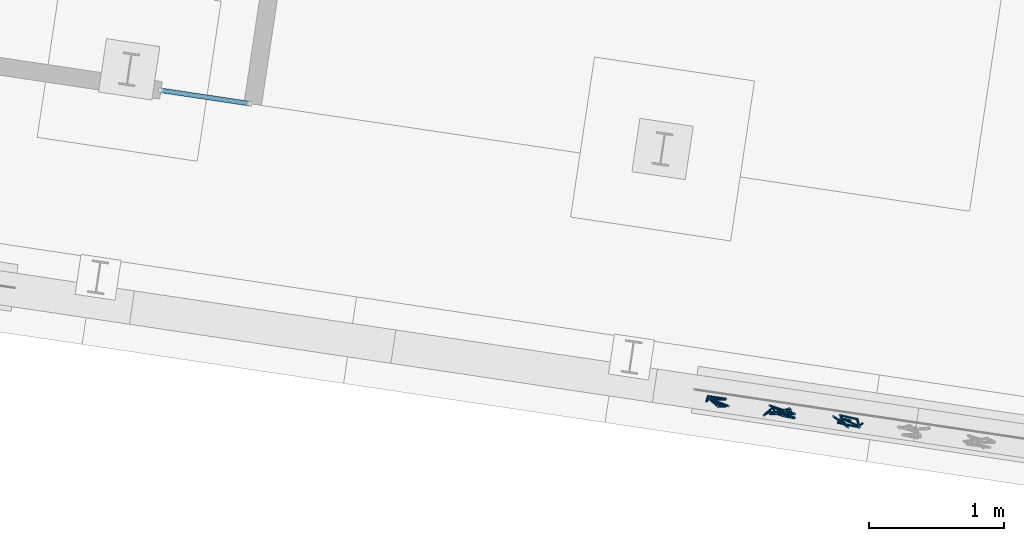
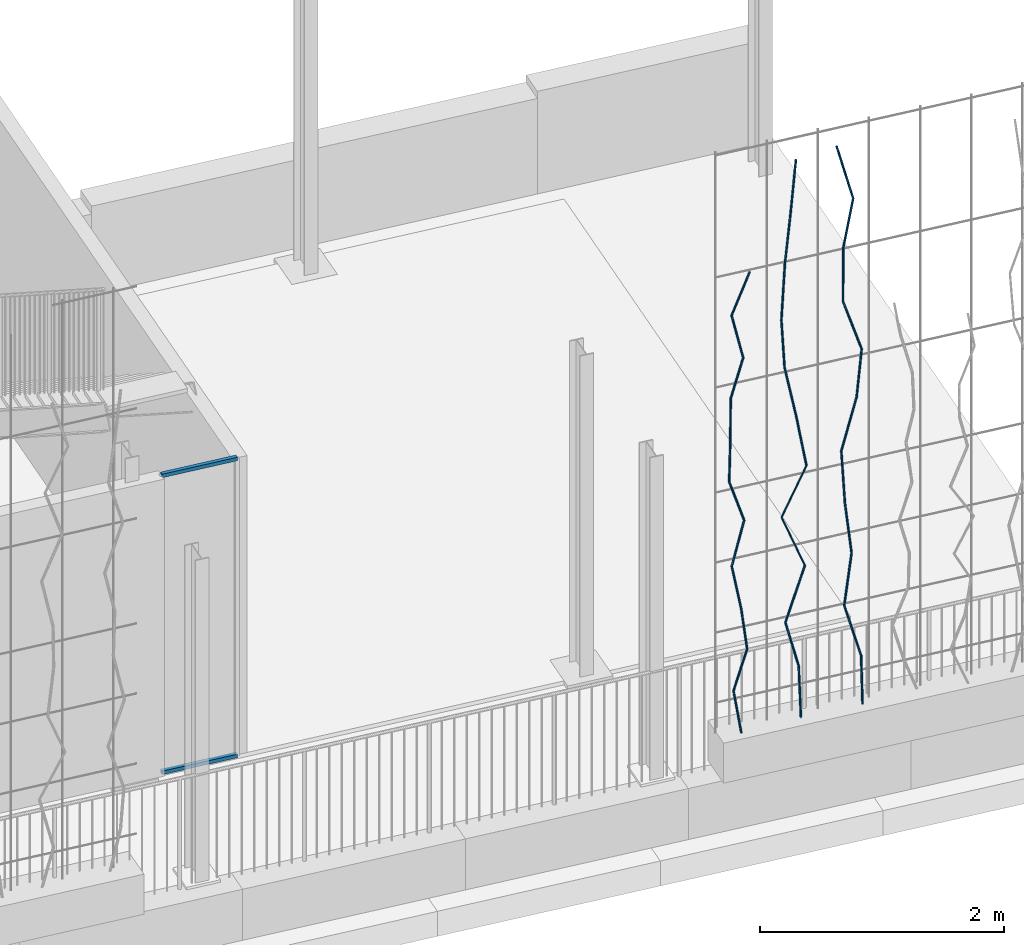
# One storey, part 119 of 142: 35 members, 1 element without a shape of its own.
"""IFC4 building model written with IfcOpenShell, lengths in metres."""

import ifcopenshell
import ifcopenshell.guid

model = None  # the IFC model being written
_history = None  # IfcOwnerHistory: only IFC2X3 demands one
_inside = {}  # id of a spatial element -> (the spatial element, [elements in it])
_under = {}  # id of a project, library or spatial element -> (it, [spatial elements below it])
_declared = {}  # id of a project -> (the project, [libraries it declares])
_typed = {}  # id of a type object -> (the type object, [elements of that type])
_made_of = {}  # id of a material, layer set ... -> (it, [elements and type objects made of it])


def new_model(schema):
    """Start an empty IFC model of exactly this schema.

    Asked for "IFC4X3", IfcOpenShell would pick the latest addendum, in which some entities
    have other attributes; the version numbers below select the first issue.
    IFC2X3 requires an IfcOwnerHistory on every rooted entity: one is made here for all.
    """
    global model, _history
    if schema == "IFC4X3":
        model = ifcopenshell.file(schema_version=(4, 3, 0, 0))
    else:
        model = ifcopenshell.file(schema=schema)
    _inside.clear()
    _under.clear()
    _declared.clear()
    _typed.clear()
    _made_of.clear()
    _history = None
    if model.schema == "IFC2X3":
        org = make("IfcOrganization", Name="unknown")
        user = make(
            "IfcPersonAndOrganization",
            ThePerson=make("IfcPerson", FamilyName="unknown"),
            TheOrganization=org,
        )
        app = make(
            "IfcApplication",
            ApplicationDeveloper=org,
            Version="unknown",
            ApplicationFullName="unknown",
            ApplicationIdentifier="unknown",
        )
        _history = make(
            "IfcOwnerHistory",
            OwningUser=user,
            OwningApplication=app,
            ChangeAction="ADDED",
            CreationDate=0,
        )
    return model


def make(cls, **values):
    """One entity of the class cls with the attributes given. An attribute that is None is left unset."""
    return model.create_entity(
        cls, **{name: value for name, value in values.items() if value is not None}
    )


def rooted(cls, **values):
    """An entity with a GlobalId (a new one), such as an element, a storey or a relation."""
    return make(cls, GlobalId=ifcopenshell.guid.new(), OwnerHistory=_history, **values)


def si_unit(unit_type, name, prefix=None):
    """IfcSIUnit, for example si_unit("LENGTHUNIT", "METRE", prefix="MILLI")."""
    return make("IfcSIUnit", UnitType=unit_type, Prefix=prefix, Name=name)


def assignment(units):
    """IfcUnitAssignment: the units of a project."""
    return None if units is None else make("IfcUnitAssignment", Units=units)


def point(xyz):
    """IfcCartesianPoint."""
    return None if xyz is None else make("IfcCartesianPoint", Coordinates=xyz)


def direction(xyz):
    """IfcDirection."""
    return None if xyz is None else make("IfcDirection", DirectionRatios=xyz)


def frame(location, z_axis=None, x_axis=None):
    """IfcAxis2Placement3D, a coordinate frame: its origin and axes. An axis left out is left unset."""
    return make(
        "IfcAxis2Placement3D",
        Location=point(location),
        Axis=direction(z_axis),
        RefDirection=direction(x_axis),
    )


def origin_with_axes():
    """The frame at (0, 0, 0) with the z axis (0, 0, 1) and the x axis (1, 0, 0) written out."""
    return frame((0.0, 0.0, 0.0), z_axis=(0.0, 0.0, 1.0), x_axis=(1.0, 0.0, 0.0))


def place(relative_to, where):
    """IfcLocalPlacement: puts the frame where relative to a parent placement (None: the world)."""
    return make(
        "IfcLocalPlacement", PlacementRelTo=relative_to, RelativePlacement=where
    )


def context(
    kind, dimensions, precision=None, world=None, true_north=None, identifier=None
):
    """IfcGeometricRepresentationContext, for example the 3D "Model" context."""
    return make(
        "IfcGeometricRepresentationContext",
        ContextIdentifier=identifier,
        ContextType=kind,
        CoordinateSpaceDimension=dimensions,
        Precision=precision,
        WorldCoordinateSystem=world,
        TrueNorth=true_north,
    )


def subcontext(parent, identifier, kind, view, scale=None):
    """IfcGeometricRepresentationSubContext, for example "Body" below "Model"."""
    return make(
        "IfcGeometricRepresentationSubContext",
        ContextIdentifier=identifier,
        ContextType=kind,
        ParentContext=parent,
        TargetScale=scale,
        TargetView=view,
    )


def project(units=None, contexts=None):
    """IfcProject with its units and contexts."""
    return rooted(
        "IfcProject",
        Name="project",
        RepresentationContexts=contexts,
        UnitsInContext=assignment(units),
    )


def spatial(cls, under=None, at=None, **own):
    """A site, building, storey or space (cls), placed at a placement, below another one or the project."""
    s = rooted(cls, ObjectPlacement=at, **own)
    if under is not None:
        _under.setdefault(under.id(), (under, []))[1].append(s)
    return s


def profile(cls, at=None, kind="AREA", **sizes):
    """A parametric profile (cls). Its sizes go by their IFC names, for example OverallWidth=200.0."""
    return make(cls, ProfileType=kind, Position=at, **sizes)


def rectangle(**sizes):
    """IfcRectangleProfileDef."""
    return profile("IfcRectangleProfileDef", **sizes)


def circle(**sizes):
    """IfcCircleProfileDef."""
    return profile("IfcCircleProfileDef", **sizes)


def extrude(swept, where, along, depth):
    """IfcExtrudedAreaSolid: the profile swept, set in the frame where, extruded along a direction by depth."""
    return make(
        "IfcExtrudedAreaSolid",
        SweptArea=swept,
        Position=where,
        ExtrudedDirection=direction(along),
        Depth=depth,
    )


def shape(context_of_items, identifier, shape_type, items):
    """IfcShapeRepresentation: the items that make up one representation, for example the "Body"."""
    return make(
        "IfcShapeRepresentation",
        ContextOfItems=context_of_items,
        RepresentationIdentifier=identifier,
        RepresentationType=shape_type,
        Items=items,
    )


def material(Name=None, Category=None):
    """IfcMaterial."""
    return make("IfcMaterial", Name=Name, Category=Category)


def material_profile(
    of_material, cross_section, Name=None, Category=None, Priority=None
):
    """IfcMaterialProfile: a cross section and its material."""
    return make(
        "IfcMaterialProfile",
        Name=Name,
        Material=of_material,
        Profile=cross_section,
        Priority=Priority,
        Category=Category,
    )


def profile_set(profiles, Name=None, composite=None):
    """IfcMaterialProfileSet."""
    return make(
        "IfcMaterialProfileSet",
        Name=Name,
        MaterialProfiles=profiles,
        CompositeProfile=composite,
    )


def profile_usage(for_profile_set, cardinal=None, extent=None):
    """IfcMaterialProfileSetUsage: how a profile set lies along its element."""
    return make(
        "IfcMaterialProfileSetUsage",
        ForProfileSet=for_profile_set,
        CardinalPoint=cardinal,
        ReferenceExtent=extent,
    )


def made_of(thing, what):
    """Note that an element or type object is made of a material, layer set ...; save() writes the relation."""
    if what is not None:
        _made_of.setdefault(what.id(), (what, []))[1].append(thing)
    return thing


def type_object(cls, material=None, **own):
    """A type object (cls), such as IfcWallType, which elements share."""
    return made_of(rooted(cls, **own), material)


def element(
    cls,
    number,
    at=None,
    inside=None,
    cuts=None,
    type_object=None,
    material=None,
    context=None,
    identifier="Body",
    shape_type=None,
    held_by="IfcProductDefinitionShape",
    body=None,
    shapes=None,
    **own,
):
    """One element of the class cls, such as IfcWall. Its Tag is "e" and its number.

    at: its placement. inside: the storey or other place that contains it. cuts: it is an
    opening in that element (IfcRelVoidsElement). A single representation is given by context,
    identifier, shape_type and body (its items); several are given by shapes. held_by: the class
    of the entity that holds the representations. save() writes the other relations.
    """
    e = rooted(cls, Tag="e%d" % number, ObjectPlacement=at, **own)
    if body is not None:
        shapes = [shape(context, identifier, shape_type, body)]
    if shapes is not None:
        e.Representation = make(held_by, Representations=shapes)
    if inside is not None:
        _inside.setdefault(inside.id(), (inside, []))[1].append(e)
    if cuts is not None:
        rooted(
            "IfcRelVoidsElement", RelatingBuildingElement=cuts, RelatedOpeningElement=e
        )
    if type_object is not None:
        _typed.setdefault(type_object.id(), (type_object, []))[1].append(e)
    return made_of(e, material)


def aggregate(whole, parts):
    """IfcRelAggregates: a whole, such as a stair, and the parts it consists of."""
    return rooted("IfcRelAggregates", RelatingObject=whole, RelatedObjects=parts)


def save(model, path):
    """Write the relations noted so far, then the file.

    IfcRelAggregates (storeys below a building ...), IfcRelContainedInSpatialStructure (elements
    in a storey), IfcRelDefinesByType, IfcRelAssociatesMaterial and IfcRelDeclares: one each for
    every whole, place, type object, material and project.
    """
    for whole, parts in _under.values():
        aggregate(whole, parts)
    for where, things in _inside.values():
        rooted(
            "IfcRelContainedInSpatialStructure",
            RelatedElements=things,
            RelatingStructure=where,
        )
    for kind, things in _typed.values():
        rooted("IfcRelDefinesByType", RelatedObjects=things, RelatingType=kind)
    for what, things in _made_of.values():
        rooted("IfcRelAssociatesMaterial", RelatedObjects=things, RelatingMaterial=what)
    for by, libraries in _declared.values():
        rooted("IfcRelDeclares", RelatingContext=by, RelatedDefinitions=libraries)
    model.write(path)


model = new_model("IFC4")

# Units and contexts
model_context = context("Model", 3, precision=1e-05, world=origin_with_axes(), true_north=direction((0.0, 1.0)))
body_context = subcontext(model_context, "Body", "Model", "MODEL_VIEW")
ifc_project = project(units=[si_unit("VOLUMEUNIT", "CUBIC_METRE"), si_unit("LENGTHUNIT", "METRE"), si_unit("AREAUNIT", "SQUARE_METRE")], contexts=[model_context])

# Site, building, storey
site_placement = place(None, origin_with_axes())
site = spatial("IfcSite", under=ifc_project, at=site_placement, Name="Lares · Rua das Mercês · artigo 4771")
building_placement = place(site_placement, frame((12.0, 10.2, 13.9), z_axis=(0.0, 0.0, 1.0), x_axis=(0.989015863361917, -0.147809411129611, 0.0)))
building = spatial("IfcBuilding", under=site, at=building_placement, Name="Casa Sobreposta")
storey_placement = place(building_placement, origin_with_axes())
storey = spatial("IfcBuildingStorey", under=building, at=storey_placement, Name="00 · Habitação e estacionamento", Elevation=13.9)

# Members
ifc_material_1 = material(Name="Aço pintado / Stahl lackiert", Category="steel")
ifc_material_profile_1 = material_profile(ifc_material_1, rectangle(XDim=0.035, YDim=0.035))
ifc_profile_set_1 = profile_set([ifc_material_profile_1], Name="R0.035")
ifc_profile_usage_1 = profile_usage(ifc_profile_set_1)
member_type_1 = type_object("IfcMemberType", Name="R0.035 / steel", PredefinedType="NOTDEFINED", material=ifc_profile_set_1)
member_1_placement = place(storey_placement, frame((24.256, 0.0, 0.0), z_axis=(1.0, 0.0, 0.0), x_axis=(0.0, -1.0, 0.0)))
element("IfcMember", 1, at=member_1_placement, inside=storey, type_object=member_type_1, material=ifc_profile_usage_1, Name="Folha de correr sul 12 · travessa", context=body_context, shape_type="SweptSolid", body=[
    extrude(rectangle(XDim=0.035, YDim=0.035), origin_with_axes(), (0.0, 0.0, 1.0), 0.664000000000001),
])
ifc_profile_usage_2 = profile_usage(ifc_profile_set_1)
member_2_placement = place(storey_placement, frame((24.256, 0.0, 2.968), z_axis=(1.0, 0.0, 0.0), x_axis=(0.0, -1.0, 0.0)))
element("IfcMember", 2, at=member_2_placement, inside=storey, type_object=member_type_1, material=ifc_profile_usage_2, Name="Folha de correr sul 12 · travessa", context=body_context, shape_type="SweptSolid", body=[
    extrude(rectangle(XDim=0.035, YDim=0.035), origin_with_axes(), (0.0, 0.0, 1.0), 0.664000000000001),
])

# Assembly, members
assembly_placement = place(storey_placement, origin_with_axes())
assembly = element("IfcElementAssembly", 3, at=assembly_placement, inside=storey, Name="Fachada sul e pátio · estrutura e trepadeiras", ObjectType="LIVING_SHADE_TRELLIS", PredefinedType="USERDEFINED")
ifc_material_2 = material(Name="Ramos de trepadeiras", Category="wood")
ifc_material_profile_2 = material_profile(ifc_material_2, circle(Radius=0.0075))
ifc_profile_set_2 = profile_set([ifc_material_profile_2], Name="D0.015")
ifc_profile_usage_3 = profile_usage(ifc_profile_set_2)
member_type_2 = type_object("IfcMemberType", Name="D0.015 / vine_wood", PredefinedType="NOTDEFINED", material=ifc_profile_set_2)
member_3_placement = place(assembly_placement, frame((28.693106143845, -1.69425509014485, 0.35), z_axis=(-0.133640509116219, 0.0815831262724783, 0.987666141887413), x_axis=(0.521049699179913, 0.853526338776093, 0.0)))
member_3 = element("IfcMember", 4, at=member_3_placement, type_object=member_type_2, material=ifc_profile_usage_3, Name="Trepadeiras · ramo", context=body_context, shape_type="SweptSolid", body=[
    extrude(circle(Radius=0.0075), origin_with_axes(), (0.0, 0.0, 1.0), 0.422593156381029),
])
ifc_profile_usage_4 = profile_usage(ifc_profile_set_2)
member_4_placement = place(assembly_placement, frame((28.6366305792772, -1.65977861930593, 0.767380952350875), z_axis=(0.242432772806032, -0.0905571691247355, 0.965932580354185), x_axis=(-0.34992011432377, -0.936779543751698, 0.0)))
member_4 = element("IfcMember", 5, at=member_4_placement, type_object=member_type_2, material=ifc_profile_usage_4, Name="Trepadeiras · ramo", context=body_context, shape_type="SweptSolid", body=[
    extrude(circle(Radius=0.0075), origin_with_axes(), (0.0, 0.0, 1.0), 0.432101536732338),
])
ifc_profile_usage_5 = profile_usage(ifc_profile_set_2)
member_5_placement = place(assembly_placement, frame((28.741386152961, -1.69890851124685, 1.18476190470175), z_axis=(-0.12972488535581, -0.0163543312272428, 0.991415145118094), x_axis=(-0.125079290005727, 0.992146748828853, 0.0)))
member_5 = element("IfcMember", 6, at=member_5_placement, type_object=member_type_2, material=ifc_profile_usage_5, Name="Trepadeiras · ramo", context=body_context, shape_type="SweptSolid", body=[
    extrude(circle(Radius=0.0075), origin_with_axes(), (0.0, 0.0, 1.0), 0.42099513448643),
])
ifc_profile_usage_6 = profile_usage(ifc_profile_set_2)
member_6_placement = place(assembly_placement, frame((28.6867726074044, -1.7057936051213, 1.60214285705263), z_axis=(-0.158406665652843, 0.0975968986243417, 0.982538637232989), x_axis=(0.524549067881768, 0.851380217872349, 0.0)))
member_6 = element("IfcMember", 7, at=member_6_placement, type_object=member_type_2, material=ifc_profile_usage_6, Name="Trepadeiras · ramo", context=body_context, shape_type="SweptSolid", body=[
    extrude(circle(Radius=0.0075), origin_with_axes(), (0.0, 0.0, 1.0), 0.424798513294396),
])
ifc_profile_usage_7 = profile_usage(ifc_profile_set_2)
member_7_placement = place(assembly_placement, frame((28.6194816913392, -1.66433458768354, 2.0195238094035), z_axis=(0.269525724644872, 0.0449849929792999, 0.961941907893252), x_axis=(0.164627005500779, -0.98635589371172, 0.0)))
member_7 = element("IfcMember", 8, at=member_7_placement, type_object=member_type_2, material=ifc_profile_usage_7, Name="Trepadeiras · ramo", context=body_context, shape_type="SweptSolid", body=[
    extrude(circle(Radius=0.0075), origin_with_axes(), (0.0, 0.0, 1.0), 0.433894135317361),
])
ifc_profile_usage_8 = profile_usage(ifc_profile_set_2)
member_8_placement = place(assembly_placement, frame((28.7364273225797, -1.64481586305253, 2.43690476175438), z_axis=(-0.300876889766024, -0.000803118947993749, 0.953662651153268), x_axis=(-0.00266925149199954, 0.999996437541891, 0.0)))
member_8 = element("IfcMember", 9, at=member_8_placement, type_object=member_type_2, material=ifc_profile_usage_8, Name="Trepadeiras · ramo", context=body_context, shape_type="SweptSolid", body=[
    extrude(circle(Radius=0.0075), origin_with_axes(), (0.0, 0.0, 1.0), 0.43766100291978),
])
ifc_profile_usage_9 = profile_usage(ifc_profile_set_2)
member_9_placement = place(assembly_placement, frame((28.6047452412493, -1.64516735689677, 2.85428571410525), z_axis=(-0.0106424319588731, -0.0836177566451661, 0.996441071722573), x_axis=(-0.991997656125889, 0.126256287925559, 0.0)))
member_9 = element("IfcMember", 10, at=member_9_placement, type_object=member_type_2, material=ifc_profile_usage_9, Name="Trepadeiras · ramo", context=body_context, shape_type="SweptSolid", body=[
    extrude(circle(Radius=0.0075), origin_with_axes(), (0.0, 0.0, 1.0), 0.418871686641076),
])
ifc_profile_usage_10 = profile_usage(ifc_profile_set_2)
member_10_placement = place(assembly_placement, frame((28.6002874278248, -1.68019246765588, 3.27166666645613), z_axis=(0.0348806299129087, 0.065653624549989, 0.99723264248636), x_axis=(0.883103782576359, -0.469177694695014, 0.0)))
member_10 = element("IfcMember", 11, at=member_10_placement, type_object=member_type_2, material=ifc_profile_usage_10, Name="Trepadeiras · ramo", context=body_context, shape_type="SweptSolid", body=[
    extrude(circle(Radius=0.0075), origin_with_axes(), (0.0, 0.0, 1.0), 0.418539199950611),
])
ifc_profile_usage_11 = profile_usage(ifc_profile_set_2)
member_11_placement = place(assembly_placement, frame((28.6148863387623, -1.65271385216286, 3.689047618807), z_axis=(0.211752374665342, -0.113877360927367, 0.970666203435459), x_axis=(-0.473638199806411, -0.880719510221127, 0.0)))
member_11 = element("IfcMember", 12, at=member_11_placement, type_object=member_type_2, material=ifc_profile_usage_11, Name="Trepadeiras · ramo", context=body_context, shape_type="SweptSolid", body=[
    extrude(circle(Radius=0.0075), origin_with_axes(), (0.0, 0.0, 1.0), 0.429994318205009),
])
ifc_profile_usage_12 = profile_usage(ifc_profile_set_2)
member_12_placement = place(assembly_placement, frame((28.7059386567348, -1.70168047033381, 4.10642857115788), z_axis=(-0.201496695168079, 0.0950246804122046, 0.974868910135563), x_axis=(0.426541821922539, 0.90446784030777, 0.0)))
member_12 = element("IfcMember", 13, at=member_12_placement, type_object=member_type_2, material=ifc_profile_usage_12, Name="Trepadeiras · ramo", context=body_context, shape_type="SweptSolid", body=[
    extrude(circle(Radius=0.0075), origin_with_axes(), (0.0, 0.0, 1.0), 0.42814059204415),
])
ifc_profile_usage_13 = profile_usage(ifc_profile_set_2)
member_13_placement = place(assembly_placement, frame((28.6196697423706, -1.66099654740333, 4.52380952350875), z_axis=(0.329421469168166, -0.0722360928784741, 0.94141565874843), x_axis=(-0.214192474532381, -0.976791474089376, 0.0)))
member_13 = element("IfcMember", 14, at=member_13_placement, type_object=member_type_2, material=ifc_profile_usage_13, Name="Trepadeiras · ramo", context=body_context, shape_type="SweptSolid", body=[
    extrude(circle(Radius=0.0075), origin_with_axes(), (0.0, 0.0, 1.0), 0.443354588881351),
])
ifc_profile_usage_14 = profile_usage(ifc_profile_set_2)
member_14_placement = place(assembly_placement, frame((29.2283838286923, -1.66457891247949, 0.35), z_axis=(-0.0252439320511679, 0.0344689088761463, 0.999086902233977), x_axis=(0.999681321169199, 0.000870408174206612, 0.0252289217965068)))
member_14 = element("IfcMember", 15, at=member_14_placement, type_object=member_type_2, material=ifc_profile_usage_14, Name="Trepadeiras · ramo", context=body_context, shape_type="SweptSolid", body=[
    extrude(circle(Radius=0.0075), origin_with_axes(), (0.0, 0.0, 1.0), 0.508202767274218),
])
ifc_profile_usage_15 = profile_usage(ifc_profile_set_2)
member_15_placement = place(assembly_placement, frame((29.215554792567, -1.64706171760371, 0.857738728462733), z_axis=(-0.262190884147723, -0.105251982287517, 0.95925906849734), x_axis=(-0.372536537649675, 0.928017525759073, 1.17797142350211e-17)))
member_15 = element("IfcMember", 16, at=member_15_placement, type_object=member_type_2, material=ifc_profile_usage_15, Name="Trepadeiras · ramo", context=body_context, shape_type="SweptSolid", body=[
    extrude(circle(Radius=0.0075), origin_with_axes(), (0.0, 0.0, 1.0), 0.529303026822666),
])
ifc_profile_usage_16 = profile_usage(ifc_profile_set_2)
member_16_placement = place(assembly_placement, frame((29.0767763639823, -1.70277191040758, 1.36547745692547), z_axis=(0.334661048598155, 0.0459395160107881, 0.941218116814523), x_axis=(0.135996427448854, -0.990709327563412, 0.0)))
member_16 = element("IfcMember", 17, at=member_16_placement, type_object=member_type_2, material=ifc_profile_usage_16, Name="Trepadeiras · ramo", context=body_context, shape_type="SweptSolid", body=[
    extrude(circle(Radius=0.0075), origin_with_axes(), (0.0, 0.0, 1.0), 0.53944852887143),
])
ifc_profile_usage_17 = profile_usage(ifc_profile_set_2)
member_17_placement = place(assembly_placement, frame((29.2573087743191, -1.67798990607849, 1.8732161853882), z_axis=(-0.351809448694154, 0.062891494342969, 0.933956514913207), x_axis=(0.175976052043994, 0.984394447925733, 0.0)))
member_17 = element("IfcMember", 18, at=member_17_placement, type_object=member_type_2, material=ifc_profile_usage_17, Name="Trepadeiras · ramo", context=body_context, shape_type="SweptSolid", body=[
    extrude(circle(Radius=0.0075), origin_with_axes(), (0.0, 0.0, 1.0), 0.543642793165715),
])
ifc_profile_usage_18 = profile_usage(ifc_profile_set_2)
member_18_placement = place(assembly_placement, frame((29.0660501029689, -1.64379939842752, 2.38095491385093), z_axis=(0.354514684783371, -0.116418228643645, 0.927774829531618), x_axis=(-0.311995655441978, -0.950083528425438, 1.72528319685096e-17)))
member_18 = element("IfcMember", 19, at=member_18_placement, type_object=member_type_2, material=ifc_profile_usage_18, Name="Trepadeiras · ramo", context=body_context, shape_type="SweptSolid", body=[
    extrude(circle(Radius=0.0075), origin_with_axes(), (0.0, 0.0, 1.0), 0.547265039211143),
])
ifc_profile_usage_19 = profile_usage(ifc_profile_set_2)
member_19_placement = place(assembly_placement, frame((29.2600635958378, -1.70751102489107, 2.88869364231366), z_axis=(-0.169784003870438, 0.00616562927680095, 0.985462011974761), x_axis=(0.0362906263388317, 0.999341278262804, 0.0)))
member_19 = element("IfcMember", 20, at=member_19_placement, type_object=member_type_2, material=ifc_profile_usage_19, Name="Trepadeiras · ramo", context=body_context, shape_type="SweptSolid", body=[
    extrude(circle(Radius=0.0075), origin_with_axes(), (0.0, 0.0, 1.0), 0.515229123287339),
])
ifc_profile_usage_20 = profile_usage(ifc_profile_set_2)
member_20_placement = place(assembly_placement, frame((29.1725859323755, -1.70433431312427, 3.3964323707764), z_axis=(-0.188513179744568, 0.031408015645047, 0.981568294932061), x_axis=(0.164343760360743, 0.986403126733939, 0.0)))
member_20 = element("IfcMember", 21, at=member_20_placement, type_object=member_type_2, material=ifc_profile_usage_20, Name="Trepadeiras · ramo", context=body_context, shape_type="SweptSolid", body=[
    extrude(circle(Radius=0.0075), origin_with_axes(), (0.0, 0.0, 1.0), 0.517272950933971),
])
ifc_profile_usage_21 = profile_usage(ifc_profile_set_2)
member_21_placement = place(assembly_placement, frame((29.075073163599, -1.68808779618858, 3.90417109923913), z_axis=(-0.0813127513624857, -0.0668964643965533, 0.99444109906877), x_axis=(-0.635328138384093, 0.772242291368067, 0.0)))
member_21 = element("IfcMember", 22, at=member_21_placement, type_object=member_type_2, material=ifc_profile_usage_21, Name="Trepadeiras · ramo", context=body_context, shape_type="SweptSolid", body=[
    extrude(circle(Radius=0.0075), origin_with_axes(), (0.0, 0.0, 1.0), 0.510576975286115),
])
ifc_profile_usage_22 = profile_usage(ifc_profile_set_2)
member_22_placement = place(assembly_placement, frame((29.0335567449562, -1.7222435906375, 4.41190982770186), z_axis=(0.109992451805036, 0.125509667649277, 0.985976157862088), x_axis=(0.752067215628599, -0.659086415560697, 0.0)))
member_22 = element("IfcMember", 23, at=member_22_placement, type_object=member_type_2, material=ifc_profile_usage_22, Name="Trepadeiras · ramo", context=body_context, shape_type="SweptSolid", body=[
    extrude(circle(Radius=0.0075), origin_with_axes(), (0.0, 0.0, 1.0), 0.514960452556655),
])
ifc_profile_usage_23 = profile_usage(ifc_profile_set_2)
member_23_placement = place(assembly_placement, frame((29.0901985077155, -1.6576110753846, 4.91964855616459), z_axis=(0.0644049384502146, -0.0771905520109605, 0.994933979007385), x_axis=(-0.767832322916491, -0.640650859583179, 0.0)))
member_23 = element("IfcMember", 24, at=member_23_placement, type_object=member_type_2, material=ifc_profile_usage_23, Name="Trepadeiras · ramo", context=body_context, shape_type="SweptSolid", body=[
    extrude(circle(Radius=0.0075), origin_with_axes(), (0.0, 0.0, 1.0), 0.510324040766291),
])
ifc_profile_usage_24 = profile_usage(ifc_profile_set_2)
member_24_placement = place(assembly_placement, frame((29.1230658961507, -1.69700326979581, 5.42738728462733), z_axis=(0.120473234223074, 0.0669973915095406, 0.990453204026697), x_axis=(0.486018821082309, -0.873948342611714, 0.0)))
member_24 = element("IfcMember", 25, at=member_24_placement, type_object=member_type_2, material=ifc_profile_usage_24, Name="Trepadeiras · ramo", context=body_context, shape_type="SweptSolid", body=[
    extrude(circle(Radius=0.0075), origin_with_axes(), (0.0, 0.0, 1.0), 0.512632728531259),
])
ifc_profile_usage_25 = profile_usage(ifc_profile_set_2)
member_25_placement = place(assembly_placement, frame((29.7668433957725, -1.67324367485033, 0.35), z_axis=(-0.0428066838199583, -0.0470108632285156, 0.997976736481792), x_axis=(-0.739395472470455, 0.673271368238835, 0.0)))
member_25 = element("IfcMember", 26, at=member_25_placement, type_object=member_type_2, material=ifc_profile_usage_25, Name="Trepadeiras · ramo", context=body_context, shape_type="SweptSolid", body=[
    extrude(circle(Radius=0.0075), origin_with_axes(), (0.0, 0.0, 1.0), 0.512141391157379),
])
ifc_profile_usage_26 = profile_usage(ifc_profile_set_2)
member_26_placement = place(assembly_placement, frame((29.7449203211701, -1.69731988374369, 0.861105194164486), z_axis=(-0.254221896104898, 0.0667168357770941, 0.96484200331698), x_axis=(0.253839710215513, 0.967246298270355, 0.0)))
member_26 = element("IfcMember", 27, at=member_26_placement, type_object=member_type_2, material=ifc_profile_usage_26, Name="Trepadeiras · ramo", context=body_context, shape_type="SweptSolid", body=[
    extrude(circle(Radius=0.0075), origin_with_axes(), (0.0, 0.0, 1.0), 0.529729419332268),
])
ifc_profile_usage_27 = profile_usage(ifc_profile_set_2)
member_27_placement = place(assembly_placement, frame((29.6102515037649, -1.66197801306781, 1.37221038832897), z_axis=(0.121962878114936, -0.00970701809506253, 0.992487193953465), x_axis=(-0.0793390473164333, -0.996847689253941, 0.0)))
member_27 = element("IfcMember", 28, at=member_27_placement, type_object=member_type_2, material=ifc_profile_usage_27, Name="Trepadeiras · ramo", context=body_context, shape_type="SweptSolid", body=[
    extrude(circle(Radius=0.0075), origin_with_axes(), (0.0, 0.0, 1.0), 0.514974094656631),
])
ifc_profile_usage_28 = profile_usage(ifc_profile_set_2)
member_28_placement = place(assembly_placement, frame((29.6730592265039, -1.66697687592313, 1.88331558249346), z_axis=(-0.11114571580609, 0.0078114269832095, 0.99377342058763), x_axis=(0.0701080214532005, 0.997539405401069, 9.67018947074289e-19)))
member_28 = element("IfcMember", 29, at=member_28_placement, type_object=member_type_2, material=ifc_profile_usage_28, Name="Trepadeiras · ramo", context=body_context, shape_type="SweptSolid", body=[
    extrude(circle(Radius=0.0075), origin_with_axes(), (0.0, 0.0, 1.0), 0.514307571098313),
])
ifc_profile_usage_29 = profile_usage(ifc_profile_set_2)
member_29_placement = place(assembly_placement, frame((29.6158961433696, -1.66295939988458, 2.39442077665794), z_axis=(-0.0428014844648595, 0.0480979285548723, 0.99792515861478), x_axis=(0.747040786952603, 0.664778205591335, 0.0)))
member_29 = element("IfcMember", 30, at=member_29_placement, type_object=member_type_2, material=ifc_profile_usage_29, Name="Trepadeiras · ramo", context=body_context, shape_type="SweptSolid", body=[
    extrude(circle(Radius=0.0075), origin_with_axes(), (0.0, 0.0, 1.0), 0.512167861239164),
])
ifc_profile_usage_30 = profile_usage(ifc_profile_set_2)
member_30_placement = place(assembly_placement, frame((29.5939745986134, -1.6383251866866, 2.90552597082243), z_axis=(0.247264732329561, -0.01922655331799, 0.968757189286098), x_axis=(-0.0775229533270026, -0.996990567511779, 0.0)))
member_30 = element("IfcMember", 31, at=member_30_placement, type_object=member_type_2, material=ifc_profile_usage_30, Name="Trepadeiras · ramo", context=body_context, shape_type="SweptSolid", body=[
    extrude(circle(Radius=0.0075), origin_with_axes(), (0.0, 0.0, 1.0), 0.52758854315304),
])
ifc_profile_usage_31 = profile_usage(ifc_profile_set_2)
member_31_placement = place(assembly_placement, frame((29.7244286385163, -1.64846889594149, 3.41663116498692), z_axis=(0.0440949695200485, -0.109390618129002, 0.993020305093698), x_axis=(-0.927483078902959, -0.373865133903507, 0.0)))
member_31 = element("IfcMember", 32, at=member_31_placement, type_object=member_type_2, material=ifc_profile_usage_31, Name="Trepadeiras · ramo", context=body_context, shape_type="SweptSolid", body=[
    extrude(circle(Radius=0.0075), origin_with_axes(), (0.0, 0.0, 1.0), 0.514697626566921),
])
ifc_profile_usage_32 = profile_usage(ifc_profile_set_2)
member_32_placement = place(assembly_placement, frame((29.7471242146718, -1.70477198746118, 3.9277363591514), z_axis=(-0.300432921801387, 0.0157623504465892, 0.953672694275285), x_axis=(0.0523933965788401, 0.998626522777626, 0.0)))
member_32 = element("IfcMember", 33, at=member_32_placement, type_object=member_type_2, material=ifc_profile_usage_32, Name="Trepadeiras · ramo", context=body_context, shape_type="SweptSolid", body=[
    extrude(circle(Radius=0.0075), origin_with_axes(), (0.0, 0.0, 1.0), 0.535933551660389),
])
ifc_profile_usage_33 = profile_usage(ifc_profile_set_2)
member_33_placement = place(assembly_placement, frame((29.5861121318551, -1.69632441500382, 4.43884155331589), z_axis=(0.0273818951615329, 0.0604129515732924, 0.997797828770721), x_axis=(0.910811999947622, -0.412821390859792, 0.0)))
member_33 = element("IfcMember", 34, at=member_33_placement, type_object=member_type_2, material=ifc_profile_usage_33, Name="Trepadeiras · ramo", context=body_context, shape_type="SweptSolid", body=[
    extrude(circle(Radius=0.0075), origin_with_axes(), (0.0, 0.0, 1.0), 0.51223321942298),
])
ifc_profile_usage_34 = profile_usage(ifc_profile_set_2)
member_34_placement = place(assembly_placement, frame((29.6001380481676, -1.66537889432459, 4.94994674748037), z_axis=(0.129038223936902, -0.101811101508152, 0.986399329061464), x_axis=(-0.619414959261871, -0.785063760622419, 0.0)))
member_34 = element("IfcMember", 35, at=member_34_placement, type_object=member_type_2, material=ifc_profile_usage_34, Name="Trepadeiras · ramo", context=body_context, shape_type="SweptSolid", body=[
    extrude(circle(Radius=0.0075), origin_with_axes(), (0.0, 0.0, 1.0), 0.518152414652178),
])
ifc_profile_usage_35 = profile_usage(ifc_profile_set_2)
member_35_placement = place(assembly_placement, frame((29.6669995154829, -1.71813256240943, 5.46105194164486), z_axis=(-0.227719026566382, 0.120705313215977, 0.966216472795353), x_axis=(0.468336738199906, 0.883550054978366, 0.0)))
member_35 = element("IfcMember", 36, at=member_35_placement, type_object=member_type_2, material=ifc_profile_usage_35, Name="Trepadeiras · ramo", context=body_context, shape_type="SweptSolid", body=[
    extrude(circle(Radius=0.0075), origin_with_axes(), (0.0, 0.0, 1.0), 0.528975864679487),
])
aggregate(assembly, [member_3, member_4, member_5, member_6, member_7, member_8, member_9, member_10, member_11, member_12, member_13, member_14, member_15, member_16, member_17, member_18, member_19, member_20, member_21, member_22, member_23, member_24, member_25, member_26, member_27, member_28, member_29, member_30, member_31, member_32, member_33, member_34, member_35])

save(model, "model.ifc")
